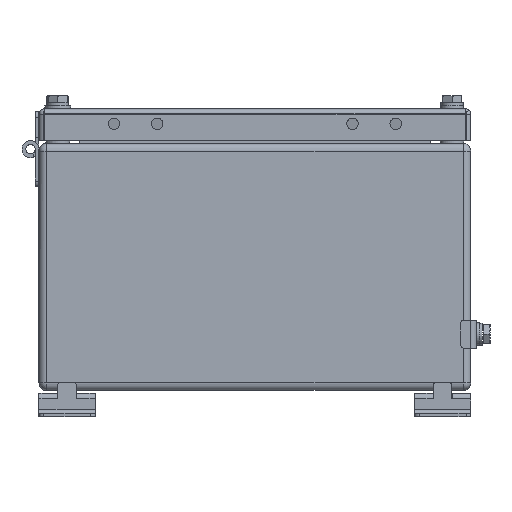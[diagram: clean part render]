
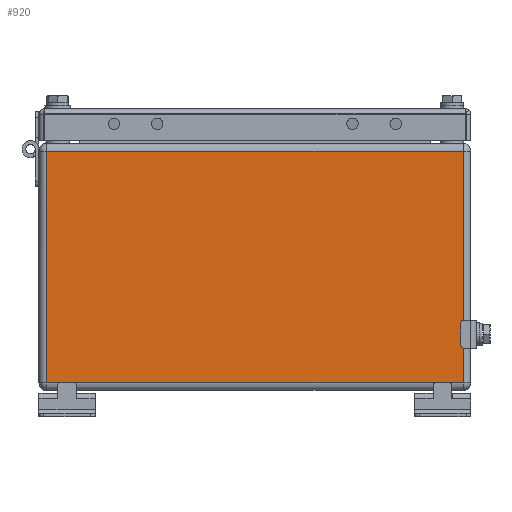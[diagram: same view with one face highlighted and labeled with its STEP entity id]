
A CAD part, front view. The second image highlights one B-rep face of the part: STEP entity #920.
In plain terms, the highlighted planar face has unit normal (0, -1, 0).
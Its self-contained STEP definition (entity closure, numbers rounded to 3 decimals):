
#373=CARTESIAN_POINT('',(111.,-200.0,127.5));
#374=VERTEX_POINT('',#373);
#467=CARTESIAN_POINT('',(111.,-200.0,4.0));
#468=VERTEX_POINT('',#467);
#523=CARTESIAN_POINT('',(111.,-200.0,127.5));
#524=DIRECTION('',(0.0,0.0,-1.0));
#525=VECTOR('',#524,123.5);
#526=LINE('',#523,#525);
#527=EDGE_CURVE('',#374,#468,#526,.T.);
#555=CARTESIAN_POINT('',(-111.,-200.0,127.5));
#556=VERTEX_POINT('',#555);
#590=CARTESIAN_POINT('',(-111.,-200.0,4.0));
#591=VERTEX_POINT('',#590);
#622=CARTESIAN_POINT('',(111.,-200.0,4.0));
#623=DIRECTION('',(-1.0,0.0,0.0));
#624=VECTOR('',#623,222.);
#625=LINE('',#622,#624);
#626=EDGE_CURVE('',#468,#591,#625,.T.);
#644=CARTESIAN_POINT('',(-111.,-200.0,4.0));
#645=DIRECTION('',(0.0,0.0,1.0));
#646=VECTOR('',#645,123.5);
#647=LINE('',#644,#646);
#648=EDGE_CURVE('',#591,#556,#647,.T.);
#681=CARTESIAN_POINT('',(-111.,-200.0,127.5));
#682=DIRECTION('',(1.0,0.0,0.0));
#683=VECTOR('',#682,222.);
#684=LINE('',#681,#683);
#685=EDGE_CURVE('',#556,#374,#684,.T.);
#909=CARTESIAN_POINT('',(115.,-200.0,0.0));
#910=DIRECTION('',(0.0,-1.0,0.0));
#911=DIRECTION('',(0.0,0.0,-1.0));
#912=AXIS2_PLACEMENT_3D('',#909,#910,#911);
#913=PLANE('',#912);
#914=ORIENTED_EDGE('',*,*,#527,.F.);
#915=ORIENTED_EDGE('',*,*,#685,.F.);
#916=ORIENTED_EDGE('',*,*,#648,.F.);
#917=ORIENTED_EDGE('',*,*,#626,.F.);
#918=EDGE_LOOP('',(#914,#915,#916,#917));
#919=FACE_OUTER_BOUND('',#918,.T.);
#920=ADVANCED_FACE('',(#919),#913,.T.);
